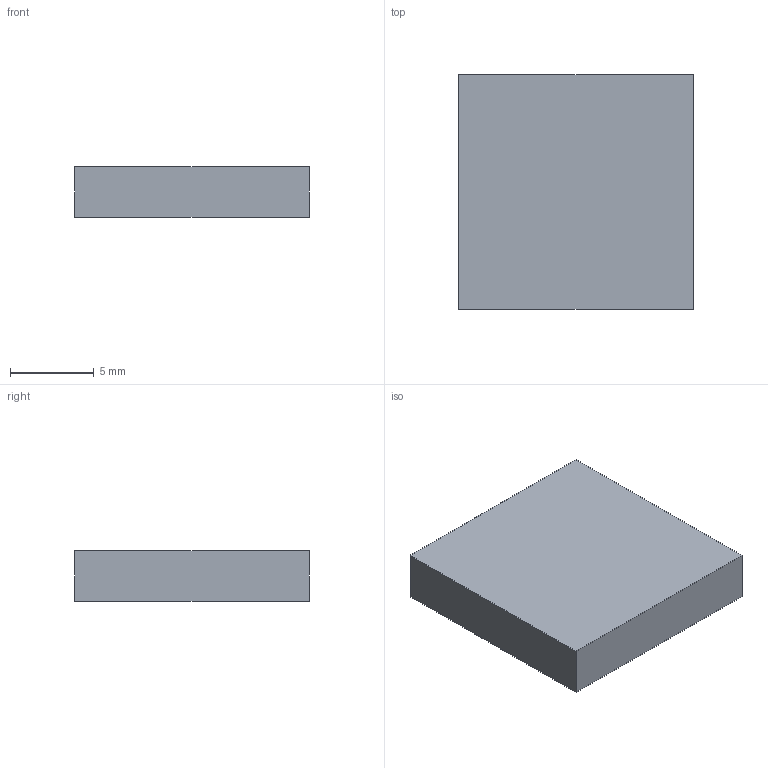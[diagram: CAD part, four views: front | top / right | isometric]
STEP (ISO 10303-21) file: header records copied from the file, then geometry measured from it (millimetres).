
FILE_DESCRIPTION(('Open CASCADE Model'),'2;1');
FILE_NAME('Open CASCADE Shape Model','2026-10-25T05:18:01',('Author'),( 'Open CASCADE'),'Open CASCADE STEP processor 7.9','Open CASCADE 7.9' ,'Unknown');
FILE_SCHEMA(('AUTOMOTIVE_DESIGN { 1 0 10303 214 1 1 1 1 }'));
Length unit declared in the file: millimetre
Products named in the file (1): Open CASCADE STEP translator 7.9 11
Bounding box: 14 x 14 x 3 mm (x, y, z)
Volume: 588 mm3; surface area: 560 mm2
Topology: 1 solids, 1 shells, 6 faces, 12 edges, 8 vertices
Faces by surface type: plane 6
Entity records: 322 total; most frequent: CARTESIAN_POINT 51, DIRECTION 50, LINE 36, VECTOR 36, ORIENTED_EDGE 24, PCURVE 24, DEFINITIONAL_REPRESENTATION 24, EDGE_CURVE 12
